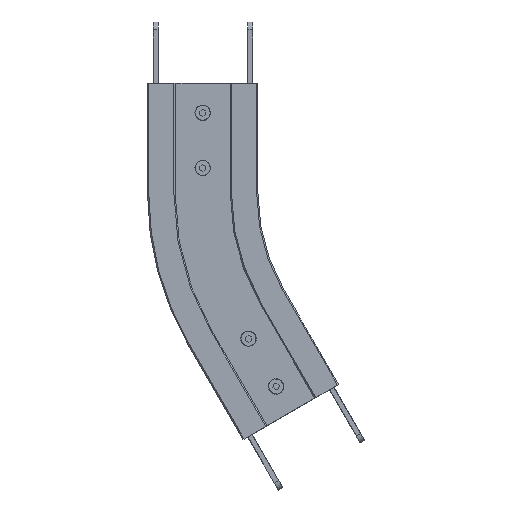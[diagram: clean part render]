
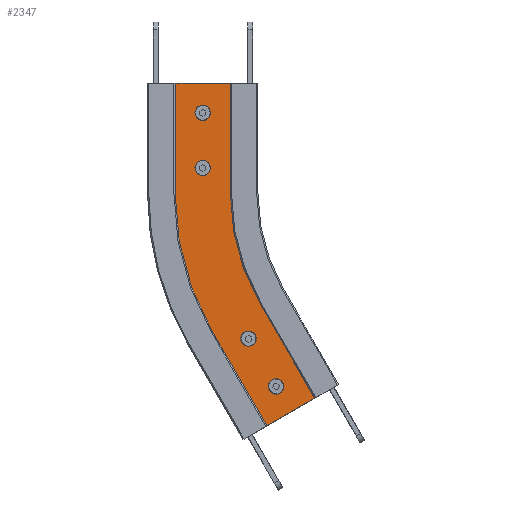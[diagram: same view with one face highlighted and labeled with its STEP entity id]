
A CAD part, front view. The second image highlights one B-rep face of the part: STEP entity #2347.
In plain terms, the highlighted planar face has unit normal (0, -1, 0) as drawn and (0, 1, 0) by its records, which use the part's own axes.
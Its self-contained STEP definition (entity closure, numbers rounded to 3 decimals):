
#6 = EDGE_LOOP ( 'NONE', ( #7582, #531 ) ) ;
#203 = ORIENTED_EDGE ( 'NONE', *, *, #12006, .F. ) ;
#243 = CARTESIAN_POINT ( 'NONE',  ( 0., 10.5, -24. ) ) ;
#295 = EDGE_CURVE ( 'NONE', #3106, #12080, #13678, .T. ) ;
#304 = DIRECTION ( 'NONE',  ( 0., 1., 0. ) ) ;
#400 = CARTESIAN_POINT ( 'NONE',  ( 0., 10.5, -62.7 ) ) ;
#409 = VERTEX_POINT ( 'NONE', #6303 ) ;
#531 = ORIENTED_EDGE ( 'NONE', *, *, #12087, .F. ) ;
#560 = CARTESIAN_POINT ( 'NONE',  ( 0., 10.5, -69. ) ) ;
#610 = DIRECTION ( 'NONE',  ( 0., 0., 1. ) ) ;
#632 = EDGE_CURVE ( 'NONE', #9724, #7040, #10046, .T. ) ;
#700 = ORIENTED_EDGE ( 'NONE', *, *, #6697, .T. ) ;
#785 = FACE_OUTER_BOUND ( 'NONE', #8615, .T. ) ;
#943 = ORIENTED_EDGE ( 'NONE', *, *, #12198, .F. ) ;
#1017 = VERTEX_POINT ( 'NONE', #13411 ) ;
#1109 = VECTOR ( 'NONE', #12414, 1000. ) ;
#1155 = AXIS2_PLACEMENT_3D ( 'NONE', #243, #4591, #5574 ) ;
#1233 = AXIS2_PLACEMENT_3D ( 'NONE', #1437, #12058, #9945 ) ;
#1289 = LINE ( 'NONE', #5523, #12615 ) ;
#1435 = DIRECTION ( 'NONE',  ( -0.866, 0., -0.5 ) ) ;
#1437 = CARTESIAN_POINT ( 'NONE',  ( 0., 10.5, -24. ) ) ;
#1696 = VERTEX_POINT ( 'NONE', #8298 ) ;
#1711 = CARTESIAN_POINT ( 'NONE',  ( 59.795, 10.5, -247.158 ) ) ;
#1730 = CIRCLE ( 'NONE', #1776, 6.3 ) ;
#1743 = PLANE ( 'NONE',  #3891 ) ;
#1776 = AXIS2_PLACEMENT_3D ( 'NONE', #3694, #6945, #9055 ) ;
#1808 = CARTESIAN_POINT ( 'NONE',  ( 57.106, 10.5, -172.5 ) ) ;
#1812 = DIRECTION ( 'NONE',  ( 0., 0., -1. ) ) ;
#1854 = CARTESIAN_POINT ( 'NONE',  ( 200., 10.5, -90. ) ) ;
#2339 = AXIS2_PLACEMENT_3D ( 'NONE', #1854, #10310, #1812 ) ;
#2347 = ADVANCED_FACE ( 'NONE', ( #6990, #4474, #4304, #6821, #785 ), #1743, .T. ) ;
#2348 = ORIENTED_EDGE ( 'NONE', *, *, #295, .T. ) ;
#2516 = VERTEX_POINT ( 'NONE', #5128 ) ;
#2605 = CARTESIAN_POINT ( 'NONE',  ( -3.516, 10.5, -207.5 ) ) ;
#2755 = DIRECTION ( 'NONE',  ( 0., 1., 0. ) ) ;
#2910 = EDGE_CURVE ( 'NONE', #12080, #2516, #8179, .T. ) ;
#3040 = CARTESIAN_POINT ( 'NONE',  ( 59.795, 10.5, -247.158 ) ) ;
#3045 = VERTEX_POINT ( 'NONE', #9522 ) ;
#3101 = VECTOR ( 'NONE', #7322, 1000. ) ;
#3106 = VERTEX_POINT ( 'NONE', #11652 ) ;
#3404 = EDGE_CURVE ( 'NONE', #10232, #4405, #8654, .T. ) ;
#3518 = ORIENTED_EDGE ( 'NONE', *, *, #5724, .F. ) ;
#3548 = CIRCLE ( 'NONE', #10295, 6.3 ) ;
#3683 = CARTESIAN_POINT ( 'NONE',  ( -35., 10.5, 0. ) ) ;
#3694 = CARTESIAN_POINT ( 'NONE',  ( 37.295, 10.5, -208.187 ) ) ;
#3796 = CARTESIAN_POINT ( 'NONE',  ( -35., 10.5, -90. ) ) ;
#3891 = AXIS2_PLACEMENT_3D ( 'NONE', #3796, #9238, #10160 ) ;
#3896 = VERTEX_POINT ( 'NONE', #10866 ) ;
#3948 = CARTESIAN_POINT ( 'NONE',  ( -3.516, 10.5, -207.5 ) ) ;
#3990 = EDGE_CURVE ( 'NONE', #1696, #3045, #10601, .T. ) ;
#4304 = FACE_BOUND ( 'NONE', #9114, .T. ) ;
#4392 = ORIENTED_EDGE ( 'NONE', *, *, #3404, .F. ) ;
#4405 = VERTEX_POINT ( 'NONE', #11634 ) ;
#4474 = FACE_BOUND ( 'NONE', #8481, .T. ) ;
#4591 = DIRECTION ( 'NONE',  ( 0., 1., 0. ) ) ;
#4592 = EDGE_CURVE ( 'NONE', #7040, #9724, #1730, .T. ) ;
#4789 = LINE ( 'NONE', #11660, #3101 ) ;
#5072 = CIRCLE ( 'NONE', #1155, 6.3 ) ;
#5089 = CIRCLE ( 'NONE', #9774, 6.3 ) ;
#5128 = CARTESIAN_POINT ( 'NONE',  ( 102.106, 10.5, -250.442 ) ) ;
#5523 = CARTESIAN_POINT ( 'NONE',  ( -35., 10.5, -90. ) ) ;
#5574 = DIRECTION ( 'NONE',  ( 0., 0., 1. ) ) ;
#5724 = EDGE_CURVE ( 'NONE', #3106, #3896, #6158, .T. ) ;
#5776 = VECTOR ( 'NONE', #5994, 1000. ) ;
#5891 = EDGE_LOOP ( 'NONE', ( #7659, #943 ) ) ;
#5951 = CIRCLE ( 'NONE', #9107, 6.3 ) ;
#5965 = DIRECTION ( 'NONE',  ( 0., 0., -1. ) ) ;
#5994 = DIRECTION ( 'NONE',  ( 0.5, 0., -0.866 ) ) ;
#6008 = VERTEX_POINT ( 'NONE', #400 ) ;
#6072 = CARTESIAN_POINT ( 'NONE',  ( 37.295, 10.5, -201.887 ) ) ;
#6158 = LINE ( 'NONE', #11313, #8519 ) ;
#6303 = CARTESIAN_POINT ( 'NONE',  ( 59.795, 10.5, -253.458 ) ) ;
#6697 = EDGE_CURVE ( 'NONE', #1017, #6880, #1289, .T. ) ;
#6748 = ORIENTED_EDGE ( 'NONE', *, *, #632, .F. ) ;
#6808 = ORIENTED_EDGE ( 'NONE', *, *, #7935, .F. ) ;
#6821 = FACE_BOUND ( 'NONE', #6, .T. ) ;
#6880 = VERTEX_POINT ( 'NONE', #3683 ) ;
#6945 = DIRECTION ( 'NONE',  ( 0., 1., 0. ) ) ;
#6990 = FACE_BOUND ( 'NONE', #5891, .T. ) ;
#7040 = VERTEX_POINT ( 'NONE', #6072 ) ;
#7105 = CIRCLE ( 'NONE', #2339, 235. ) ;
#7322 = DIRECTION ( 'NONE',  ( -1., 0., 0. ) ) ;
#7582 = ORIENTED_EDGE ( 'NONE', *, *, #10972, .F. ) ;
#7659 = ORIENTED_EDGE ( 'NONE', *, *, #3990, .F. ) ;
#7701 = EDGE_CURVE ( 'NONE', #6008, #11192, #5951, .T. ) ;
#7935 = EDGE_CURVE ( 'NONE', #3896, #6880, #4789, .T. ) ;
#8083 = LINE ( 'NONE', #11047, #11685 ) ;
#8179 = LINE ( 'NONE', #1808, #1109 ) ;
#8211 = CARTESIAN_POINT ( 'NONE',  ( 37.295, 10.5, -214.487 ) ) ;
#8298 = CARTESIAN_POINT ( 'NONE',  ( 0., 10.5, -17.7 ) ) ;
#8376 = CARTESIAN_POINT ( 'NONE',  ( 0., 10.5, -69. ) ) ;
#8481 = EDGE_LOOP ( 'NONE', ( #9360, #9345 ) ) ;
#8519 = VECTOR ( 'NONE', #10318, 1000. ) ;
#8615 = EDGE_LOOP ( 'NONE', ( #6808, #3518, #2348, #9137, #9867, #4392, #203, #700 ) ) ;
#8654 = LINE ( 'NONE', #3948, #5776 ) ;
#9010 = CARTESIAN_POINT ( 'NONE',  ( 59.795, 10.5, -240.858 ) ) ;
#9055 = DIRECTION ( 'NONE',  ( 0., 0., 1. ) ) ;
#9107 = AXIS2_PLACEMENT_3D ( 'NONE', #8376, #10403, #11486 ) ;
#9114 = EDGE_LOOP ( 'NONE', ( #12723, #6748 ) ) ;
#9137 = ORIENTED_EDGE ( 'NONE', *, *, #2910, .T. ) ;
#9211 = DIRECTION ( 'NONE',  ( 0., 1., 0. ) ) ;
#9238 = DIRECTION ( 'NONE',  ( 0., 1., 0. ) ) ;
#9267 = DIRECTION ( 'NONE',  ( 0., -1., 0. ) ) ;
#9313 = CARTESIAN_POINT ( 'NONE',  ( 200., 10.5, -90. ) ) ;
#9345 = ORIENTED_EDGE ( 'NONE', *, *, #12340, .F. ) ;
#9360 = ORIENTED_EDGE ( 'NONE', *, *, #7701, .F. ) ;
#9522 = CARTESIAN_POINT ( 'NONE',  ( 0., 10.5, -30.3 ) ) ;
#9558 = CARTESIAN_POINT ( 'NONE',  ( 0., 10.5, -75.3 ) ) ;
#9724 = VERTEX_POINT ( 'NONE', #8211 ) ;
#9774 = AXIS2_PLACEMENT_3D ( 'NONE', #1711, #9211, #10265 ) ;
#9867 = ORIENTED_EDGE ( 'NONE', *, *, #10016, .T. ) ;
#9945 = DIRECTION ( 'NONE',  ( 0., 0., 1. ) ) ;
#9958 = AXIS2_PLACEMENT_3D ( 'NONE', #9313, #9267, #5965 ) ;
#10016 = EDGE_CURVE ( 'NONE', #2516, #4405, #8083, .T. ) ;
#10046 = CIRCLE ( 'NONE', #13399, 6.3 ) ;
#10160 = DIRECTION ( 'NONE',  ( 0., 0., 1. ) ) ;
#10232 = VERTEX_POINT ( 'NONE', #2605 ) ;
#10265 = DIRECTION ( 'NONE',  ( 0., 0., 1. ) ) ;
#10295 = AXIS2_PLACEMENT_3D ( 'NONE', #560, #2755, #610 ) ;
#10310 = DIRECTION ( 'NONE',  ( 0., -1., 0. ) ) ;
#10318 = DIRECTION ( 'NONE',  ( 0., 0., 1. ) ) ;
#10374 = DIRECTION ( 'NONE',  ( 0., 0., 1. ) ) ;
#10403 = DIRECTION ( 'NONE',  ( 0., 1., 0. ) ) ;
#10601 = CIRCLE ( 'NONE', #1233, 6.3 ) ;
#10866 = CARTESIAN_POINT ( 'NONE',  ( 35., 10.5, 0. ) ) ;
#10972 = EDGE_CURVE ( 'NONE', #12328, #409, #11169, .T. ) ;
#11047 = CARTESIAN_POINT ( 'NONE',  ( 41.484, 10.5, -285.442 ) ) ;
#11169 = CIRCLE ( 'NONE', #13183, 6.3 ) ;
#11192 = VERTEX_POINT ( 'NONE', #9558 ) ;
#11313 = CARTESIAN_POINT ( 'NONE',  ( 35., 10.5, -90. ) ) ;
#11430 = DIRECTION ( 'NONE',  ( 0., 1., 0. ) ) ;
#11486 = DIRECTION ( 'NONE',  ( 0., 0., 1. ) ) ;
#11634 = CARTESIAN_POINT ( 'NONE',  ( 41.484, 10.5, -285.442 ) ) ;
#11652 = CARTESIAN_POINT ( 'NONE',  ( 35., 10.5, -90. ) ) ;
#11660 = CARTESIAN_POINT ( 'NONE',  ( -35., 10.5, 0. ) ) ;
#11685 = VECTOR ( 'NONE', #1435, 1000. ) ;
#12006 = EDGE_CURVE ( 'NONE', #1017, #10232, #7105, .T. ) ;
#12058 = DIRECTION ( 'NONE',  ( 0., 1., 0. ) ) ;
#12080 = VERTEX_POINT ( 'NONE', #13385 ) ;
#12087 = EDGE_CURVE ( 'NONE', #409, #12328, #5089, .T. ) ;
#12198 = EDGE_CURVE ( 'NONE', #3045, #1696, #5072, .T. ) ;
#12328 = VERTEX_POINT ( 'NONE', #9010 ) ;
#12340 = EDGE_CURVE ( 'NONE', #11192, #6008, #3548, .T. ) ;
#12414 = DIRECTION ( 'NONE',  ( 0.5, 0., -0.866 ) ) ;
#12615 = VECTOR ( 'NONE', #12948, 1000. ) ;
#12723 = ORIENTED_EDGE ( 'NONE', *, *, #4592, .F. ) ;
#12948 = DIRECTION ( 'NONE',  ( 0., 0., 1. ) ) ;
#12995 = DIRECTION ( 'NONE',  ( 0., 0., 1. ) ) ;
#13055 = CARTESIAN_POINT ( 'NONE',  ( 37.295, 10.5, -208.187 ) ) ;
#13183 = AXIS2_PLACEMENT_3D ( 'NONE', #3040, #11430, #10374 ) ;
#13385 = CARTESIAN_POINT ( 'NONE',  ( 57.106, 10.5, -172.5 ) ) ;
#13399 = AXIS2_PLACEMENT_3D ( 'NONE', #13055, #304, #12995 ) ;
#13411 = CARTESIAN_POINT ( 'NONE',  ( -35., 10.5, -90. ) ) ;
#13678 = CIRCLE ( 'NONE', #9958, 165. ) ;
